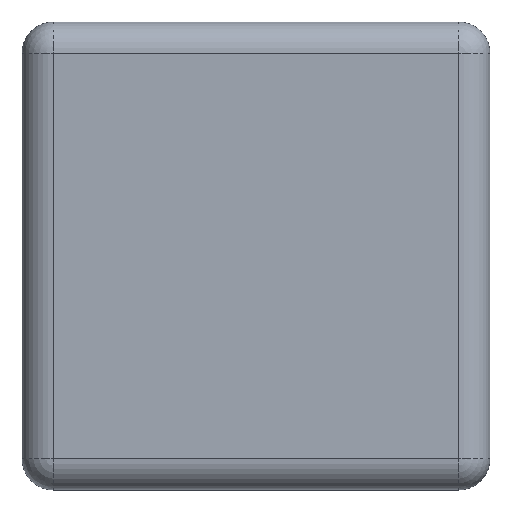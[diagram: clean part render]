
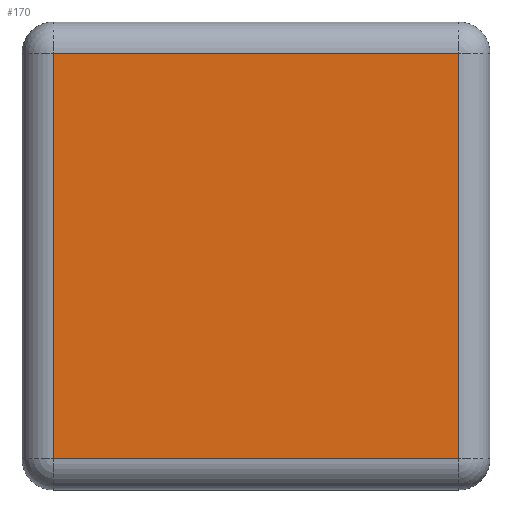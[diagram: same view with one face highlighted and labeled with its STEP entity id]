
A CAD part, top view. The second image highlights one B-rep face of the part: STEP entity #170.
In plain terms, the highlighted planar face has unit normal (0, 0, 1).
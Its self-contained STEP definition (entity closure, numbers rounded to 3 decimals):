
#80 = EDGE_CURVE( '', #207, #203, #208, .T. );
#100 = EDGE_CURVE( '', #203, #240, #241, .T. );
#160 = EDGE_CURVE( '', #243, #207, #320, .T. );
#170 = ADVANCED_FACE( '', ( #331 ), #332, .T. );
#182 = EDGE_CURVE( '', #240, #243, #345, .T. );
#203 = VERTEX_POINT( '', #357 );
#207 = VERTEX_POINT( '', #362 );
#208 = LINE( '', #363, #364 );
#240 = VERTEX_POINT( '', #406 );
#241 = LINE( '', #407, #408 );
#243 = VERTEX_POINT( '', #411 );
#320 = LINE( '', #515, #516 );
#331 = FACE_OUTER_BOUND( '', #530, .T. );
#332 = PLANE( '', #531 );
#345 = LINE( '', #551, #552 );
#357 = CARTESIAN_POINT( '', ( 28., 2., 3. ) );
#362 = CARTESIAN_POINT( '', ( 2., 2., 3. ) );
#363 = CARTESIAN_POINT( '', ( 7.5, 2., 3. ) );
#364 = VECTOR( '', #561, 1000. );
#406 = CARTESIAN_POINT( '', ( 28., 28., 3. ) );
#407 = CARTESIAN_POINT( '', ( 28., 7.5, 3. ) );
#408 = VECTOR( '', #599, 1000. );
#411 = CARTESIAN_POINT( '', ( 2., 28., 3. ) );
#515 = CARTESIAN_POINT( '', ( 2., 15., 3. ) );
#516 = VECTOR( '', #726, 1000. );
#530 = EDGE_LOOP( '', ( #745, #746, #747, #748 ) );
#531 = AXIS2_PLACEMENT_3D( '', #749, #750, #751 );
#551 = CARTESIAN_POINT( '', ( 15., 28., 3. ) );
#552 = VECTOR( '', #768, 1000. );
#561 = DIRECTION( '', ( 1., 0., 0. ) );
#599 = DIRECTION( '', ( 0., 1., 0. ) );
#726 = DIRECTION( '', ( 0., -1., 0. ) );
#745 = ORIENTED_EDGE( '', *, *, #80, .T. );
#746 = ORIENTED_EDGE( '', *, *, #100, .T. );
#747 = ORIENTED_EDGE( '', *, *, #182, .T. );
#748 = ORIENTED_EDGE( '', *, *, #160, .T. );
#749 = CARTESIAN_POINT( '', ( 15., 15., 3. ) );
#750 = DIRECTION( '', ( 0., 0., 1. ) );
#751 = DIRECTION( '', ( 1., 0., 0. ) );
#768 = DIRECTION( '', ( -1., 0., 0. ) );
